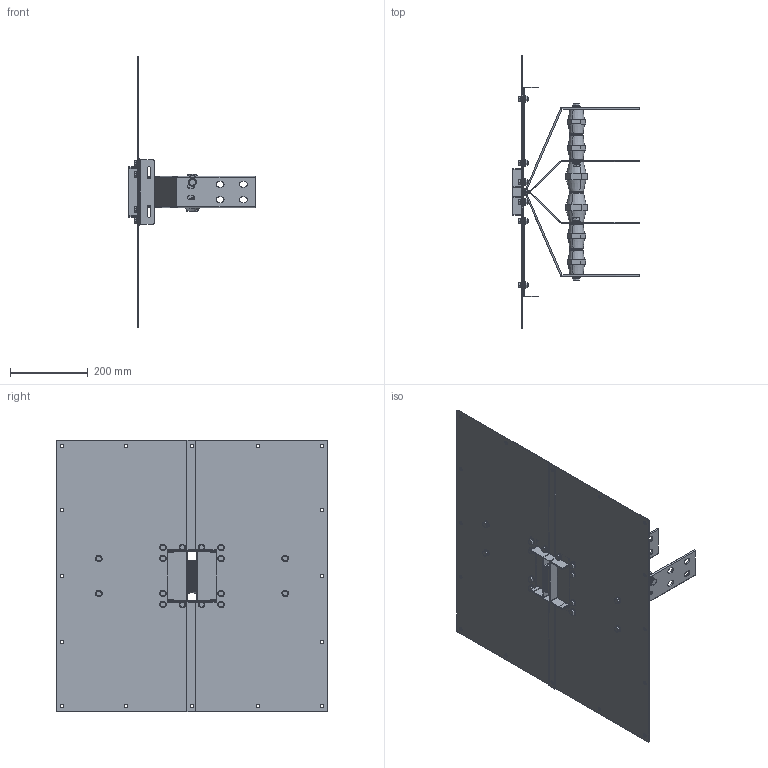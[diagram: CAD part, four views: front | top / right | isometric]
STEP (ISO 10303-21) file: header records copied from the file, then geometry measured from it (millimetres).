
FILE_DESCRIPTION(('CATIA V5 STEP','CAx-IF Rec.Pracs.--- Model Styling and Organization---1.5--- 2016-08-15','CAx-IF Rec.Pracs.---Supplemental Geometry---1.0---2011-11-01','CAx-IF Rec.Pracs.--- Composite Materials ---1.1---2010-07-15'),'2;1');
FILE_NAME('K:\COSCN 2011\32372311_RiduzioneSezioniBarre\03_Studio\__Modelli semplificati\XCP_UB semplificati per studi\XCP-S_UB_4C_Pe_CRT_Assieme\Al\XCP-S_UB_4C_Pe_S_Assieme - 800A Al\XCP-S_UB_4C_Pe_S_Assieme - 800A Al_CRT.stp','2025-05-12T12:24:59+00:00',('Utente Bticino'),('Bticino S.p.A.'),'CATIA Version 5-6 Release 2020 SP5','CATIA V5 STEP AP214 v2','none');
FILE_SCHEMA(('AUTOMOTIVE_DESIGN { 1 0 10303 214 1 1 1 1 }'));
Length unit declared in the file: millimetre
Products named in the file (20): XCP-S_UB_4C_Pe_S_Assieme - 800A Al_CRT; XCP-S_UB_4C_Pe_S_PaccoBarre_800A Al_CRT; XCP-S_UB_4C_Pe_S_Lamiere_800A Al_CRT; 130006; 130184; 00750033 - RONDELLA PIANA 4.8 D.12 UNI 6592 ZB; Ass_M10x25.1; 00740025 M10x25 UNI5739; Rondella spac M10 UNI 1751; 00750005; 130006_1; 130006_2; 130006_3; 130184_1; 00750033 - RONDELLA PIANA 4.8 D.12 UNI 6592 ZB_1; 00750033 - RONDELLA PIANA 4.8 D.12 UNI 6592 ZB_2; Viteria UB H130; Ass Vite+dado M8; Steel hex flanged SCREW M12x16; Steel hex flanged NUT M8
Assembly tree (39 placements, depth 4):
  XCP-S_UB_4C_Pe_S_Assieme - 800A Al_CRT
    XCP-S_UB_4C_Pe_S_PaccoBarre_800A Al_CRT
    XCP-S_UB_4C_Pe_S_Lamiere_800A Al_CRT
    130006
    130184
    00750033 - RONDELLA PIANA 4.8 D.12 UNI 6592 ZB
    Ass_M10x25.1  x6
      00740025 M10x25 UNI5739
      Rondella spac M10 UNI 1751
      00750005
    130006_1
    130006_2
    130006_3
    130184_1
    00750033 - RONDELLA PIANA 4.8 D.12 UNI 6592 ZB_1
    00750033 - RONDELLA PIANA 4.8 D.12 UNI 6592 ZB_2
    Viteria UB H130
      Ass Vite+dado M8  x16
        Steel hex flanged SCREW M12x16
        Steel hex flanged NUT M8
Bounding box: 325 x 700 x 700 mm (x, y, z)
Volume: 2366592.2 mm3; surface area: 1671630.7 mm2
Topology: 73 solids, 73 shells, 1660 faces, 3980 edges, 2504 vertices
Faces by surface type: plane 728, cylinder 492, cone 200, bspline 176, torus 64
Entity records: 23807 total; most frequent: CARTESIAN_POINT 5202, ORIENTED_EDGE 3952, DIRECTION 3122, EDGE_CURVE 1976, AXIS2_PLACEMENT_3D 1370, VERTEX_POINT 1264, VECTOR 1132, LINE 1132
